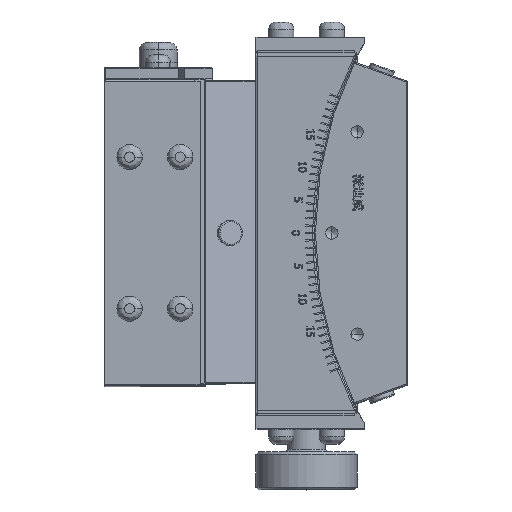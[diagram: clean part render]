
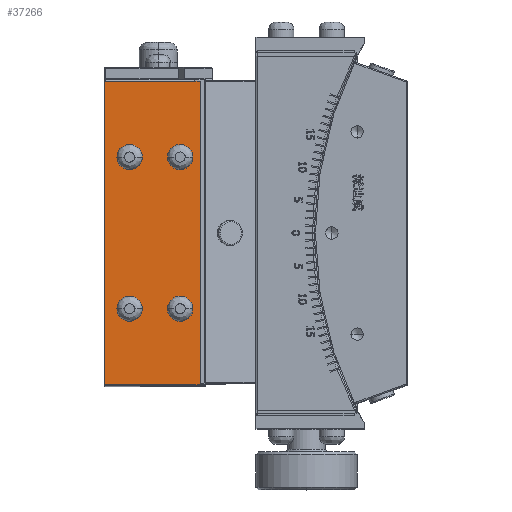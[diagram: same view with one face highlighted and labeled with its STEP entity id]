
A CAD part, top view. The second image highlights one B-rep face of the part: STEP entity #37266.
In plain terms, the highlighted planar face has unit normal (0, 0, 1).
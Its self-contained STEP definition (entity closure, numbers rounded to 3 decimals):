
#459 = PLANE ( 'NONE',  #68395 ) ;
#698 = DIRECTION ( 'NONE',  ( 1., 0., 0. ) ) ;
#815 = FACE_OUTER_BOUND ( 'NONE', #45380, .T. ) ;
#840 = CIRCLE ( 'NONE', #4283, 5. ) ;
#1058 = CARTESIAN_POINT ( 'NONE',  ( 0., -30., 77.5 ) ) ;
#1168 = FACE_BOUND ( 'NONE', #67611, .T. ) ;
#1398 = DIRECTION ( 'NONE',  ( 0., 0., -1. ) ) ;
#2456 = CARTESIAN_POINT ( 'NONE',  ( -20., -30., 77.5 ) ) ;
#2812 = DIRECTION ( 'NONE',  ( 1., 0., 0. ) ) ;
#2892 = ORIENTED_EDGE ( 'NONE', *, *, #67335, .T. ) ;
#4283 = AXIS2_PLACEMENT_3D ( 'NONE', #49884, #54897, #49180 ) ;
#4722 = CARTESIAN_POINT ( 'NONE',  ( -5., -30., 77.5 ) ) ;
#6800 = DIRECTION ( 'NONE',  ( 1., 0., 0. ) ) ;
#7067 = VERTEX_POINT ( 'NONE', #52647 ) ;
#8192 = DIRECTION ( 'NONE',  ( 1., 0., 0. ) ) ;
#8483 = CARTESIAN_POINT ( 'NONE',  ( -25., -30., 77.5 ) ) ;
#8806 = CARTESIAN_POINT ( 'NONE',  ( -25., 30., 77.5 ) ) ;
#9144 = CARTESIAN_POINT ( 'NONE',  ( 0., 30., 77.5 ) ) ;
#9609 = EDGE_CURVE ( 'NONE', #70867, #63184, #57418, .T. ) ;
#9939 = ORIENTED_EDGE ( 'NONE', *, *, #46960, .F. ) ;
#10573 = CIRCLE ( 'NONE', #50824, 5. ) ;
#11324 = CARTESIAN_POINT ( 'NONE',  ( 7.863, -60., 77.5 ) ) ;
#11601 = CARTESIAN_POINT ( 'NONE',  ( 13., -60., 77.5 ) ) ;
#12008 = CARTESIAN_POINT ( 'NONE',  ( -5., 30., 77.5 ) ) ;
#13236 = LINE ( 'NONE', #47793, #13673 ) ;
#13318 = ORIENTED_EDGE ( 'NONE', *, *, #9609, .T. ) ;
#13532 = VERTEX_POINT ( 'NONE', #28087 ) ;
#13673 = VECTOR ( 'NONE', #8192, 1000. ) ;
#16947 = ORIENTED_EDGE ( 'NONE', *, *, #23412, .T. ) ;
#19816 = VERTEX_POINT ( 'NONE', #67229 ) ;
#20587 = CARTESIAN_POINT ( 'NONE',  ( 7.863, -60., 77.5 ) ) ;
#21990 = EDGE_CURVE ( 'NONE', #7067, #59114, #31691, .T. ) ;
#22033 = EDGE_CURVE ( 'NONE', #35006, #22573, #54001, .T. ) ;
#22573 = VERTEX_POINT ( 'NONE', #11324 ) ;
#22753 = DIRECTION ( 'NONE',  ( 1., 0., 0. ) ) ;
#23125 = EDGE_CURVE ( 'NONE', #35006, #13532, #25729, .T. ) ;
#23412 = EDGE_CURVE ( 'NONE', #38638, #19816, #57060, .T. ) ;
#25729 = LINE ( 'NONE', #47015, #44407 ) ;
#25888 = CARTESIAN_POINT ( 'NONE',  ( -20., 30., 77.5 ) ) ;
#26052 = AXIS2_PLACEMENT_3D ( 'NONE', #1058, #1398, #6800 ) ;
#26177 = ORIENTED_EDGE ( 'NONE', *, *, #22033, .T. ) ;
#27024 = EDGE_LOOP ( 'NONE', ( #50569, #2892 ) ) ;
#27705 = CARTESIAN_POINT ( 'NONE',  ( 13., -60., 77.5 ) ) ;
#27889 = VERTEX_POINT ( 'NONE', #30175 ) ;
#28087 = CARTESIAN_POINT ( 'NONE',  ( -30., 60., 77.5 ) ) ;
#29365 = VERTEX_POINT ( 'NONE', #12008 ) ;
#30175 = CARTESIAN_POINT ( 'NONE',  ( 7.863, 60., 77.5 ) ) ;
#31691 = CIRCLE ( 'NONE', #38542, 5. ) ;
#32148 = AXIS2_PLACEMENT_3D ( 'NONE', #50173, #60952, #51863 ) ;
#33449 = ORIENTED_EDGE ( 'NONE', *, *, #42379, .T. ) ;
#35006 = VERTEX_POINT ( 'NONE', #68041 ) ;
#35884 = EDGE_CURVE ( 'NONE', #63184, #70867, #36167, .T. ) ;
#36167 = CIRCLE ( 'NONE', #69476, 5. ) ;
#36364 = DIRECTION ( 'NONE',  ( 0., 0., -1. ) ) ;
#37266 = ADVANCED_FACE ( 'NONE', ( #44022, #40041, #60908, #1168, #815 ), #459, .T. ) ;
#37499 = DIRECTION ( 'NONE',  ( 0., 1., 0. ) ) ;
#37813 = DIRECTION ( 'NONE',  ( 1., 0., 0. ) ) ;
#38420 = AXIS2_PLACEMENT_3D ( 'NONE', #9144, #53415, #54466 ) ;
#38502 = DIRECTION ( 'NONE',  ( 0., 0., -1. ) ) ;
#38542 = AXIS2_PLACEMENT_3D ( 'NONE', #50017, #38502, #37813 ) ;
#38638 = VERTEX_POINT ( 'NONE', #4722 ) ;
#40041 = FACE_BOUND ( 'NONE', #51023, .T. ) ;
#40871 = VECTOR ( 'NONE', #698, 1000. ) ;
#42339 = VERTEX_POINT ( 'NONE', #70063 ) ;
#42379 = EDGE_CURVE ( 'NONE', #19816, #38638, #840, .T. ) ;
#44022 = FACE_BOUND ( 'NONE', #27024, .T. ) ;
#44407 = VECTOR ( 'NONE', #64942, 1000. ) ;
#45380 = EDGE_LOOP ( 'NONE', ( #50782, #26177, #65039, #9939 ) ) ;
#46299 = ORIENTED_EDGE ( 'NONE', *, *, #57586, .T. ) ;
#46388 = DIRECTION ( 'NONE',  ( 0., 0., -1. ) ) ;
#46960 = EDGE_CURVE ( 'NONE', #13532, #27889, #13236, .T. ) ;
#47015 = CARTESIAN_POINT ( 'NONE',  ( -30., 0., 77.5 ) ) ;
#47528 = EDGE_CURVE ( 'NONE', #42339, #29365, #51599, .T. ) ;
#47793 = CARTESIAN_POINT ( 'NONE',  ( 13., 60., 77.5 ) ) ;
#48013 = CARTESIAN_POINT ( 'NONE',  ( -20., 30., 77.5 ) ) ;
#48321 = LINE ( 'NONE', #20587, #59209 ) ;
#48620 = ORIENTED_EDGE ( 'NONE', *, *, #21990, .T. ) ;
#49180 = DIRECTION ( 'NONE',  ( 1., 0., 0. ) ) ;
#49884 = CARTESIAN_POINT ( 'NONE',  ( 0., -30., 77.5 ) ) ;
#50017 = CARTESIAN_POINT ( 'NONE',  ( -20., -30., 77.5 ) ) ;
#50173 = CARTESIAN_POINT ( 'NONE',  ( 0., 30., 77.5 ) ) ;
#50569 = ORIENTED_EDGE ( 'NONE', *, *, #47528, .T. ) ;
#50782 = ORIENTED_EDGE ( 'NONE', *, *, #23125, .F. ) ;
#50824 = AXIS2_PLACEMENT_3D ( 'NONE', #2456, #46388, #2812 ) ;
#51023 = EDGE_LOOP ( 'NONE', ( #48620, #46299 ) ) ;
#51599 = CIRCLE ( 'NONE', #32148, 5. ) ;
#51863 = DIRECTION ( 'NONE',  ( 1., 0., 0. ) ) ;
#52647 = CARTESIAN_POINT ( 'NONE',  ( -15., -30., 77.5 ) ) ;
#53415 = DIRECTION ( 'NONE',  ( 0., 0., -1. ) ) ;
#53745 = DIRECTION ( 'NONE',  ( 1., 0., 0. ) ) ;
#54001 = LINE ( 'NONE', #27705, #40871 ) ;
#54466 = DIRECTION ( 'NONE',  ( 1., 0., 0. ) ) ;
#54897 = DIRECTION ( 'NONE',  ( 0., 0., -1. ) ) ;
#55848 = DIRECTION ( 'NONE',  ( 0., 0., 1. ) ) ;
#57060 = CIRCLE ( 'NONE', #26052, 5. ) ;
#57415 = CARTESIAN_POINT ( 'NONE',  ( -15., 30., 77.5 ) ) ;
#57418 = CIRCLE ( 'NONE', #66560, 5. ) ;
#57586 = EDGE_CURVE ( 'NONE', #59114, #7067, #10573, .T. ) ;
#59114 = VERTEX_POINT ( 'NONE', #8483 ) ;
#59137 = ORIENTED_EDGE ( 'NONE', *, *, #35884, .T. ) ;
#59209 = VECTOR ( 'NONE', #37499, 1000. ) ;
#60908 = FACE_BOUND ( 'NONE', #70691, .T. ) ;
#60952 = DIRECTION ( 'NONE',  ( 0., 0., -1. ) ) ;
#63184 = VERTEX_POINT ( 'NONE', #57415 ) ;
#63332 = DIRECTION ( 'NONE',  ( 1., 0., 0. ) ) ;
#63473 = DIRECTION ( 'NONE',  ( 0., 0., -1. ) ) ;
#64942 = DIRECTION ( 'NONE',  ( 0., 1., 0. ) ) ;
#65039 = ORIENTED_EDGE ( 'NONE', *, *, #68545, .T. ) ;
#66560 = AXIS2_PLACEMENT_3D ( 'NONE', #48013, #63473, #53745 ) ;
#67229 = CARTESIAN_POINT ( 'NONE',  ( 5., -30., 77.5 ) ) ;
#67335 = EDGE_CURVE ( 'NONE', #29365, #42339, #69450, .T. ) ;
#67611 = EDGE_LOOP ( 'NONE', ( #33449, #16947 ) ) ;
#68041 = CARTESIAN_POINT ( 'NONE',  ( -30., -60., 77.5 ) ) ;
#68395 = AXIS2_PLACEMENT_3D ( 'NONE', #11601, #55848, #22753 ) ;
#68545 = EDGE_CURVE ( 'NONE', #22573, #27889, #48321, .T. ) ;
#69450 = CIRCLE ( 'NONE', #38420, 5. ) ;
#69476 = AXIS2_PLACEMENT_3D ( 'NONE', #25888, #36364, #63332 ) ;
#70063 = CARTESIAN_POINT ( 'NONE',  ( 5., 30., 77.5 ) ) ;
#70691 = EDGE_LOOP ( 'NONE', ( #59137, #13318 ) ) ;
#70867 = VERTEX_POINT ( 'NONE', #8806 ) ;
